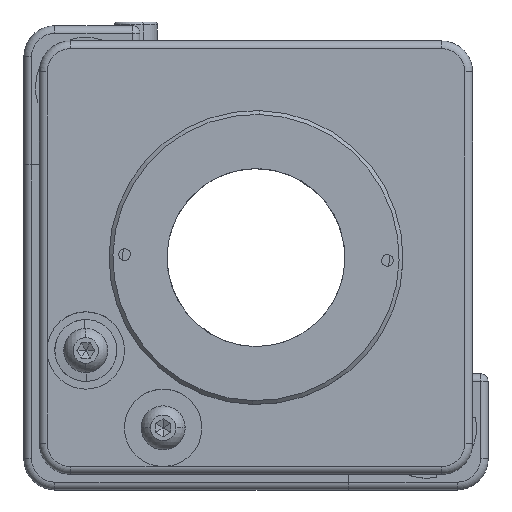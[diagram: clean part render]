
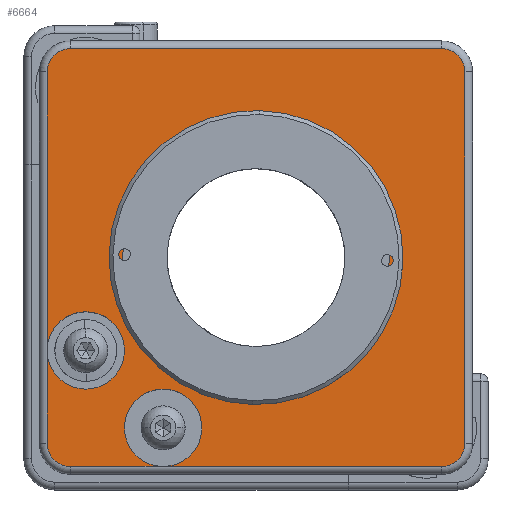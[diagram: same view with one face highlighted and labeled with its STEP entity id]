
A CAD part, top view. The second image highlights one B-rep face of the part: STEP entity #6664.
In plain terms, the highlighted planar face has unit normal (0, 0, 1).
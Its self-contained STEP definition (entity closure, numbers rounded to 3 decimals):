
#196 = CARTESIAN_POINT ( 'NONE',  ( -16.69, -27.329, 4. ) ) ;
#430 = CARTESIAN_POINT ( 'NONE',  ( 34.31, -27.329, 4. ) ) ;
#450 = FACE_OUTER_BOUND ( 'NONE', #4903, .T. ) ;
#454 = DIRECTION ( 'NONE',  ( 0., 0., 1. ) ) ;
#476 = DIRECTION ( 'NONE',  ( 1., 0., 0. ) ) ;
#567 = CARTESIAN_POINT ( 'NONE',  ( -16.69, -27.329, 4. ) ) ;
#738 = DIRECTION ( 'NONE',  ( 0., -1., 0. ) ) ;
#765 = LINE ( 'NONE', #3675, #10111 ) ;
#798 = CIRCLE ( 'NONE', #11273, 5. ) ;
#940 = CARTESIAN_POINT ( 'NONE',  ( -13.69, 23.671, 4. ) ) ;
#1014 = CIRCLE ( 'NONE', #6948, 17.25 ) ;
#1031 = VECTOR ( 'NONE', #3461, 1000. ) ;
#1132 = DIRECTION ( 'NONE',  ( 1., 0., 0. ) ) ;
#1198 = VERTEX_POINT ( 'NONE', #4513 ) ;
#1245 = DIRECTION ( 'NONE',  ( -1., 0., 0. ) ) ;
#1325 = DIRECTION ( 'NONE',  ( 0., 0., 1. ) ) ;
#1359 = EDGE_CURVE ( 'NONE', #4457, #4391, #3489, .T. ) ;
#1381 = AXIS2_PLACEMENT_3D ( 'NONE', #8654, #4028, #3983 ) ;
#1582 = AXIS2_PLACEMENT_3D ( 'NONE', #7692, #6528, #5935 ) ;
#1699 = VERTEX_POINT ( 'NONE', #4835 ) ;
#1705 = CARTESIAN_POINT ( 'NONE',  ( -1.69, -25.329, 4. ) ) ;
#1778 = CIRCLE ( 'NONE', #1582, 5. ) ;
#1825 = DIRECTION ( 'NONE',  ( 0., 0., 1. ) ) ;
#1888 = DIRECTION ( 'NONE',  ( 0., 0., 1. ) ) ;
#1928 = EDGE_LOOP ( 'NONE', ( #5050, #5066 ) ) ;
#1947 = CARTESIAN_POINT ( 'NONE',  ( 37.31, 20.671, 4. ) ) ;
#1971 = DIRECTION ( 'NONE',  ( 1., 0., 0. ) ) ;
#2045 = ORIENTED_EDGE ( 'NONE', *, *, #9617, .T. ) ;
#2116 = PLANE ( 'NONE',  #1381 ) ;
#2399 = DIRECTION ( 'NONE',  ( 0., 1., 0. ) ) ;
#2420 = CARTESIAN_POINT ( 'NONE',  ( -13.69, 20.671, 4. ) ) ;
#2503 = AXIS2_PLACEMENT_3D ( 'NONE', #1705, #1888, #1971 ) ;
#2509 = CARTESIAN_POINT ( 'NONE',  ( -13.69, -27.329, 4. ) ) ;
#2575 = LINE ( 'NONE', #1947, #11723 ) ;
#2797 = DIRECTION ( 'NONE',  ( 0., 0., 1. ) ) ;
#2870 = CARTESIAN_POINT ( 'NONE',  ( 37.31, 20.671, 4. ) ) ;
#2872 = LINE ( 'NONE', #940, #4911 ) ;
#2890 = CARTESIAN_POINT ( 'NONE',  ( -16.69, 20.671, 4. ) ) ;
#2969 = ORIENTED_EDGE ( 'NONE', *, *, #9536, .T. ) ;
#3097 = VERTEX_POINT ( 'NONE', #9574 ) ;
#3177 = DIRECTION ( 'NONE',  ( 0., 0., 1. ) ) ;
#3180 = VERTEX_POINT ( 'NONE', #8008 ) ;
#3192 = DIRECTION ( 'NONE',  ( 1., 0., 0. ) ) ;
#3316 = DIRECTION ( 'NONE',  ( 1., 0., 0. ) ) ;
#3322 = EDGE_CURVE ( 'NONE', #4487, #5188, #798, .T. ) ;
#3428 = CARTESIAN_POINT ( 'NONE',  ( 34.31, -30.329, 4. ) ) ;
#3461 = DIRECTION ( 'NONE',  ( 1., 0., 0. ) ) ;
#3489 = CIRCLE ( 'NONE', #9582, 5. ) ;
#3490 = CARTESIAN_POINT ( 'NONE',  ( 10.31, -3.329, 4. ) ) ;
#3516 = AXIS2_PLACEMENT_3D ( 'NONE', #2509, #3177, #3192 ) ;
#3585 = CARTESIAN_POINT ( 'NONE',  ( -1.69, -25.329, 4. ) ) ;
#3675 = CARTESIAN_POINT ( 'NONE',  ( 34.31, -30.329, 4. ) ) ;
#3765 = CARTESIAN_POINT ( 'NONE',  ( 34.31, 23.671, 4. ) ) ;
#3983 = DIRECTION ( 'NONE',  ( 1., 0., 0. ) ) ;
#4028 = DIRECTION ( 'NONE',  ( 0., 0., 1. ) ) ;
#4179 = EDGE_CURVE ( 'NONE', #7308, #5086, #4909, .T. ) ;
#4245 = VERTEX_POINT ( 'NONE', #9714 ) ;
#4352 = VECTOR ( 'NONE', #738, 1000. ) ;
#4391 = VERTEX_POINT ( 'NONE', #4598 ) ;
#4457 = VERTEX_POINT ( 'NONE', #8349 ) ;
#4487 = VERTEX_POINT ( 'NONE', #5633 ) ;
#4513 = CARTESIAN_POINT ( 'NONE',  ( 37.31, -27.329, 4. ) ) ;
#4545 = ORIENTED_EDGE ( 'NONE', *, *, #10973, .T. ) ;
#4598 = CARTESIAN_POINT ( 'NONE',  ( -1.69, -30.329, 4. ) ) ;
#4693 = DIRECTION ( 'NONE',  ( 1., 0., 0. ) ) ;
#4757 = CIRCLE ( 'NONE', #10651, 3. ) ;
#4781 = ORIENTED_EDGE ( 'NONE', *, *, #3322, .F. ) ;
#4835 = CARTESIAN_POINT ( 'NONE',  ( 3.31, -25.329, 4. ) ) ;
#4903 = EDGE_LOOP ( 'NONE', ( #6044, #8648, #10432, #10259, #10751, #10847, #7672, #5238, #4545, #4946, #6863, #2969, #11102, #4781, #2045 ) ) ;
#4909 = CIRCLE ( 'NONE', #9700, 3. ) ;
#4911 = VECTOR ( 'NONE', #1245, 1000. ) ;
#4946 = ORIENTED_EDGE ( 'NONE', *, *, #9463, .T. ) ;
#5050 = ORIENTED_EDGE ( 'NONE', *, *, #11430, .F. ) ;
#5066 = ORIENTED_EDGE ( 'NONE', *, *, #10750, .F. ) ;
#5086 = VERTEX_POINT ( 'NONE', #2890 ) ;
#5188 = VERTEX_POINT ( 'NONE', #10271 ) ;
#5238 = ORIENTED_EDGE ( 'NONE', *, *, #10469, .T. ) ;
#5312 = DIRECTION ( 'NONE',  ( 0., -1., 0. ) ) ;
#5328 = DIRECTION ( 'NONE',  ( 0., 0., 1. ) ) ;
#5371 = CARTESIAN_POINT ( 'NONE',  ( 10.31, -3.329, 4. ) ) ;
#5433 = DIRECTION ( 'NONE',  ( 1., 0., 0. ) ) ;
#5633 = CARTESIAN_POINT ( 'NONE',  ( -16.69, -15.329, 4. ) ) ;
#5716 = VERTEX_POINT ( 'NONE', #2870 ) ;
#5750 = LINE ( 'NONE', #3428, #1031 ) ;
#5935 = DIRECTION ( 'NONE',  ( 1., 0., 0. ) ) ;
#6044 = ORIENTED_EDGE ( 'NONE', *, *, #8155, .T. ) ;
#6491 = VERTEX_POINT ( 'NONE', #11315 ) ;
#6528 = DIRECTION ( 'NONE',  ( 0., 0., 1. ) ) ;
#6664 = ADVANCED_FACE ( 'NONE', ( #450, #9783 ), #2116, .T. ) ;
#6810 = EDGE_CURVE ( 'NONE', #5188, #4487, #6825, .T. ) ;
#6825 = CIRCLE ( 'NONE', #8304, 5. ) ;
#6863 = ORIENTED_EDGE ( 'NONE', *, *, #4179, .T. ) ;
#6948 = AXIS2_PLACEMENT_3D ( 'NONE', #3490, #11561, #7154 ) ;
#7154 = DIRECTION ( 'NONE',  ( 1., 0., 0. ) ) ;
#7251 = VERTEX_POINT ( 'NONE', #11569 ) ;
#7308 = VERTEX_POINT ( 'NONE', #10160 ) ;
#7400 = AXIS2_PLACEMENT_3D ( 'NONE', #9162, #9176, #9186 ) ;
#7532 = EDGE_CURVE ( 'NONE', #1699, #4457, #1778, .T. ) ;
#7672 = ORIENTED_EDGE ( 'NONE', *, *, #10156, .T. ) ;
#7692 = CARTESIAN_POINT ( 'NONE',  ( -1.69, -25.329, 4. ) ) ;
#8008 = CARTESIAN_POINT ( 'NONE',  ( 27.56, -3.329, 4. ) ) ;
#8086 = VECTOR ( 'NONE', #5312, 1000. ) ;
#8155 = EDGE_CURVE ( 'NONE', #3097, #6491, #10894, .T. ) ;
#8206 = CARTESIAN_POINT ( 'NONE',  ( -11.69, -15.329, 4. ) ) ;
#8304 = AXIS2_PLACEMENT_3D ( 'NONE', #10046, #1325, #9476 ) ;
#8349 = CARTESIAN_POINT ( 'NONE',  ( -6.69, -25.329, 4. ) ) ;
#8385 = LINE ( 'NONE', #196, #8086 ) ;
#8648 = ORIENTED_EDGE ( 'NONE', *, *, #10883, .T. ) ;
#8654 = CARTESIAN_POINT ( 'NONE',  ( -17.69, -31.329, 4. ) ) ;
#8734 = DIRECTION ( 'NONE',  ( 0., 0., 1. ) ) ;
#8775 = CIRCLE ( 'NONE', #2503, 5. ) ;
#8876 = AXIS2_PLACEMENT_3D ( 'NONE', #5371, #5328, #5433 ) ;
#9081 = CIRCLE ( 'NONE', #8876, 17.25 ) ;
#9135 = DIRECTION ( 'NONE',  ( 1., 0., 0. ) ) ;
#9162 = CARTESIAN_POINT ( 'NONE',  ( 34.31, 20.671, 4. ) ) ;
#9176 = DIRECTION ( 'NONE',  ( 0., 0., 1. ) ) ;
#9186 = DIRECTION ( 'NONE',  ( 1., 0., 0. ) ) ;
#9463 = EDGE_CURVE ( 'NONE', #9754, #7308, #2872, .T. ) ;
#9476 = DIRECTION ( 'NONE',  ( 1., 0., 0. ) ) ;
#9500 = CIRCLE ( 'NONE', #7400, 3. ) ;
#9536 = EDGE_CURVE ( 'NONE', #5086, #4487, #11732, .T. ) ;
#9574 = CARTESIAN_POINT ( 'NONE',  ( -16.69, -27.329, 4. ) ) ;
#9582 = AXIS2_PLACEMENT_3D ( 'NONE', #3585, #1825, #1132 ) ;
#9617 = EDGE_CURVE ( 'NONE', #4487, #3097, #8385, .T. ) ;
#9700 = AXIS2_PLACEMENT_3D ( 'NONE', #2420, #8734, #3316 ) ;
#9714 = CARTESIAN_POINT ( 'NONE',  ( -6.94, -3.329, 4. ) ) ;
#9754 = VERTEX_POINT ( 'NONE', #3765 ) ;
#9783 = FACE_BOUND ( 'NONE', #1928, .T. ) ;
#10046 = CARTESIAN_POINT ( 'NONE',  ( -11.69, -15.329, 4. ) ) ;
#10111 = VECTOR ( 'NONE', #4693, 1000. ) ;
#10156 = EDGE_CURVE ( 'NONE', #7251, #1198, #4757, .T. ) ;
#10160 = CARTESIAN_POINT ( 'NONE',  ( -13.69, 23.671, 4. ) ) ;
#10213 = EDGE_CURVE ( 'NONE', #4391, #1699, #8775, .T. ) ;
#10259 = ORIENTED_EDGE ( 'NONE', *, *, #7532, .F. ) ;
#10271 = CARTESIAN_POINT ( 'NONE',  ( -6.69, -15.329, 4. ) ) ;
#10388 = EDGE_CURVE ( 'NONE', #4391, #7251, #765, .T. ) ;
#10432 = ORIENTED_EDGE ( 'NONE', *, *, #1359, .F. ) ;
#10469 = EDGE_CURVE ( 'NONE', #1198, #5716, #2575, .T. ) ;
#10651 = AXIS2_PLACEMENT_3D ( 'NONE', #430, #454, #476 ) ;
#10750 = EDGE_CURVE ( 'NONE', #4245, #3180, #9081, .T. ) ;
#10751 = ORIENTED_EDGE ( 'NONE', *, *, #10213, .F. ) ;
#10847 = ORIENTED_EDGE ( 'NONE', *, *, #10388, .T. ) ;
#10883 = EDGE_CURVE ( 'NONE', #6491, #4391, #5750, .T. ) ;
#10894 = CIRCLE ( 'NONE', #3516, 3. ) ;
#10973 = EDGE_CURVE ( 'NONE', #5716, #9754, #9500, .T. ) ;
#11102 = ORIENTED_EDGE ( 'NONE', *, *, #6810, .F. ) ;
#11273 = AXIS2_PLACEMENT_3D ( 'NONE', #8206, #2797, #9135 ) ;
#11315 = CARTESIAN_POINT ( 'NONE',  ( -13.69, -30.329, 4. ) ) ;
#11430 = EDGE_CURVE ( 'NONE', #3180, #4245, #1014, .T. ) ;
#11561 = DIRECTION ( 'NONE',  ( 0., 0., 1. ) ) ;
#11569 = CARTESIAN_POINT ( 'NONE',  ( 34.31, -30.329, 4. ) ) ;
#11723 = VECTOR ( 'NONE', #2399, 1000. ) ;
#11732 = LINE ( 'NONE', #567, #4352 ) ;
